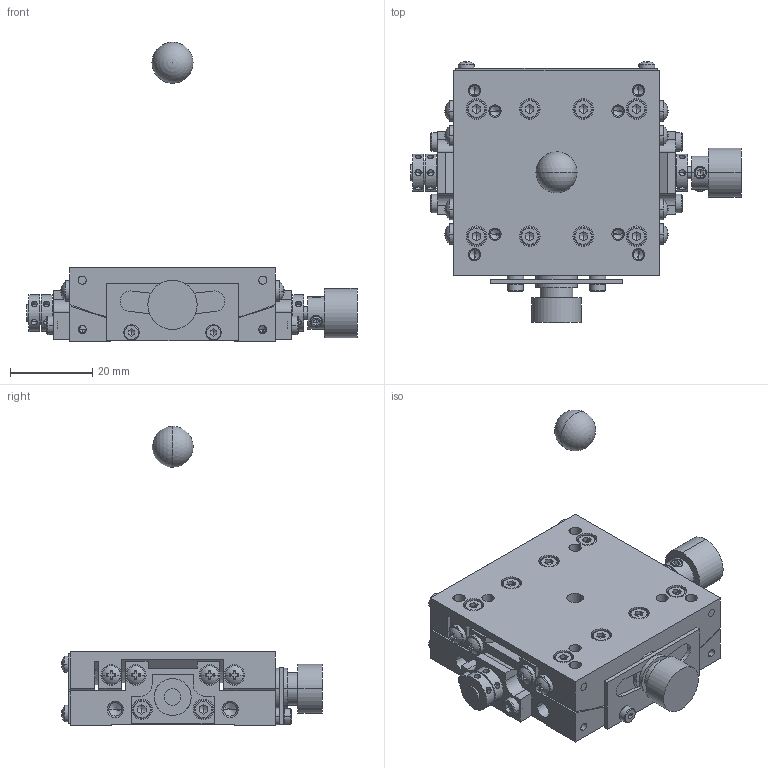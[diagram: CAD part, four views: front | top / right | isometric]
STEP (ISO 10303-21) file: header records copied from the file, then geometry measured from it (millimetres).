
FILE_DESCRIPTION (( 'STEP AP203' ), '1' );
FILE_NAME ('SH05B-RT-R.STEP', '2016-09-28T08:19:31', ( '' ), ( '' ), 'SwSTEP 2.0', 'SolidWorks 2011', '' );
FILE_SCHEMA (( 'CONFIG_CONTROL_DESIGN' ));
Products named in the file (5): SH05B-RT-R; base-9; table-5; rotation-center-9; SH05B-RT-R.sldasm-Part-1
Assembly tree (3 placements, depth 2):
  SH05B-RT-R
    table-5
    rotation-center-9
    base-9
  SH05B-RT-R.sldasm-Part-1
Bounding box: 80.5 x 63.59 x 73 mm (x, y, z)
Volume: 43397.7 mm3; surface area: 26272.4 mm2
Topology: 3 solids, 39 shells, 1945 faces, 4731 edges, 2850 vertices
Faces by surface type: plane 950, cylinder 631, cone 252, torus 80, sphere 26, bspline 6
Entity records: 60553 total; most frequent: CARTESIAN_POINT 14438, DIRECTION 9924, ORIENTED_EDGE 9180, EDGE_CURVE 4590, AXIS2_PLACEMENT_3D 3693, VERTEX_POINT 2847, VECTOR 2538, LINE 2538
